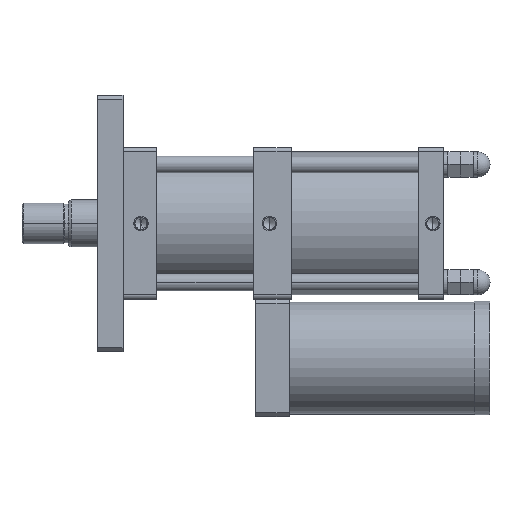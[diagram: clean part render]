
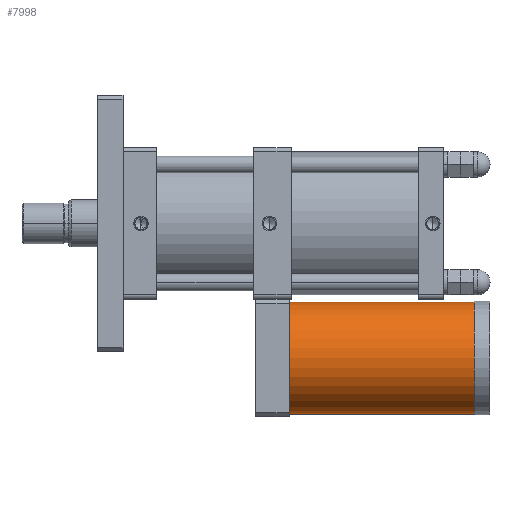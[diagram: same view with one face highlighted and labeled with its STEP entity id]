
A CAD part, front view. The second image highlights one B-rep face of the part: STEP entity #7998.
In plain terms, the highlighted cylindrical face has radius 66.5 mm (diameter 133 mm), a partial arc.
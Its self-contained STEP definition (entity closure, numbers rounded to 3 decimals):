
#42 = VERTEX_POINT ( 'NONE', #898 ) ;
#296 = DIRECTION ( 'NONE',  ( 1., 0., 0. ) ) ;
#306 = AXIS2_PLACEMENT_3D ( 'NONE', #1692, #6538, #2374 ) ;
#793 = EDGE_CURVE ( 'NONE', #7129, #42, #7726, .T. ) ;
#898 = CARTESIAN_POINT ( 'NONE',  ( 317.5, 0., -226.5 ) ) ;
#1185 = DIRECTION ( 'NONE',  ( 0., 0., 1. ) ) ;
#1232 = EDGE_CURVE ( 'NONE', #3422, #5884, #5897, .T. ) ;
#1414 = ORIENTED_EDGE ( 'NONE', *, *, #793, .T. ) ;
#1692 = CARTESIAN_POINT ( 'NONE',  ( 317.5, 0., -160. ) ) ;
#2033 = FACE_OUTER_BOUND ( 'NONE', #6999, .T. ) ;
#2374 = DIRECTION ( 'NONE',  ( 0., 0., -1. ) ) ;
#3278 = DIRECTION ( 'NONE',  ( -1., 0., 0. ) ) ;
#3422 = VERTEX_POINT ( 'NONE', #8291 ) ;
#3773 = AXIS2_PLACEMENT_3D ( 'NONE', #4400, #296, #5111 ) ;
#4011 = EDGE_CURVE ( 'NONE', #3422, #7129, #6233, .T. ) ;
#4022 = VECTOR ( 'NONE', #8653, 1000. ) ;
#4400 = CARTESIAN_POINT ( 'NONE',  ( 537.5, 0., -160. ) ) ;
#4530 = ORIENTED_EDGE ( 'NONE', *, *, #5902, .F. ) ;
#4978 = ORIENTED_EDGE ( 'NONE', *, *, #4011, .T. ) ;
#5111 = DIRECTION ( 'NONE',  ( 0., 0., -1. ) ) ;
#5167 = CARTESIAN_POINT ( 'NONE',  ( 537.5, 0., -226.5 ) ) ;
#5519 = CYLINDRICAL_SURFACE ( 'NONE', #5922, 66.5 ) ;
#5595 = VECTOR ( 'NONE', #6736, 1000. ) ;
#5884 = VERTEX_POINT ( 'NONE', #5167 ) ;
#5897 = CIRCLE ( 'NONE', #3773, 66.5 ) ;
#5902 = EDGE_CURVE ( 'NONE', #5884, #42, #6091, .T. ) ;
#5922 = AXIS2_PLACEMENT_3D ( 'NONE', #7425, #3278, #1185 ) ;
#6049 = CARTESIAN_POINT ( 'NONE',  ( 537.5, 0., -93.5 ) ) ;
#6091 = LINE ( 'NONE', #7944, #4022 ) ;
#6233 = LINE ( 'NONE', #6049, #5595 ) ;
#6538 = DIRECTION ( 'NONE',  ( 1., 0., 0. ) ) ;
#6736 = DIRECTION ( 'NONE',  ( -1., 0., 0. ) ) ;
#6999 = EDGE_LOOP ( 'NONE', ( #4530, #7080, #4978, #1414 ) ) ;
#7080 = ORIENTED_EDGE ( 'NONE', *, *, #1232, .F. ) ;
#7129 = VERTEX_POINT ( 'NONE', #8004 ) ;
#7425 = CARTESIAN_POINT ( 'NONE',  ( 537.5, 0., -160. ) ) ;
#7726 = CIRCLE ( 'NONE', #306, 66.5 ) ;
#7944 = CARTESIAN_POINT ( 'NONE',  ( 537.5, 0., -226.5 ) ) ;
#7998 = ADVANCED_FACE ( 'NONE', ( #2033 ), #5519, .T. ) ;
#8004 = CARTESIAN_POINT ( 'NONE',  ( 317.5, 0., -93.5 ) ) ;
#8291 = CARTESIAN_POINT ( 'NONE',  ( 537.5, 0., -93.5 ) ) ;
#8653 = DIRECTION ( 'NONE',  ( -1., 0., 0. ) ) ;
